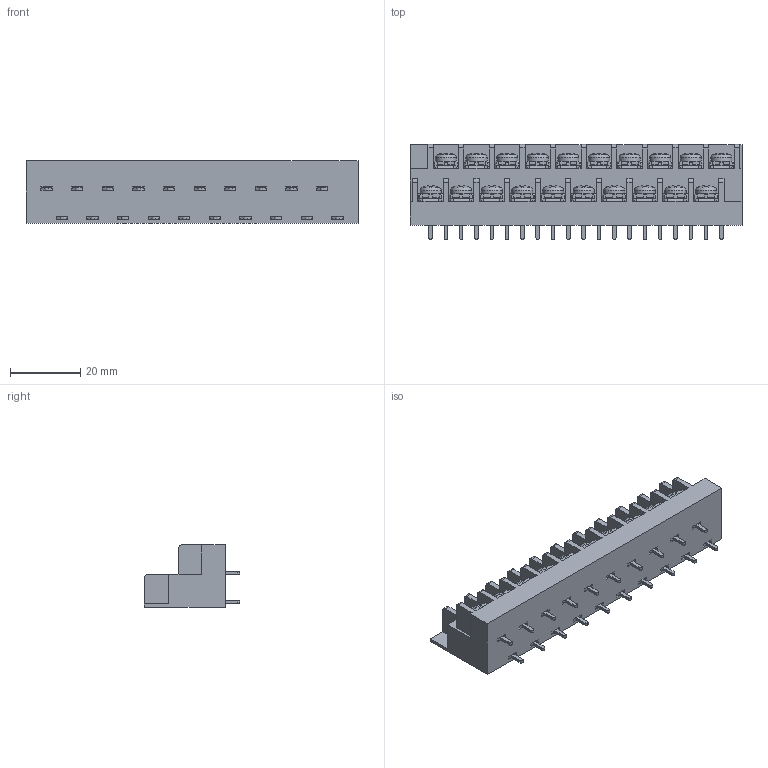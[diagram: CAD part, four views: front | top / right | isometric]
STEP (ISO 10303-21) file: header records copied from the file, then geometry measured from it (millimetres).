
FILE_DESCRIPTION(/* description */ ('Alibre Inc.'),/* implementation_level */ '2;1');
FILE_NAME(/* name */ 'export-DC7E4356-A031-4E9F-B177-688F13486E43',/* time_stamp */ '2021-02-09T11:02:37+09:00',/* author */ (''),/* organization */ (''),/* preprocessor_version */ 'ST-DEVELOPER v17',/* originating_system */ 'Alibre',/* authorisation */ '');
FILE_SCHEMA (('CONFIG_CONTROL_DESIGN'));
Length unit declared in the file: millimetre
Bounding box: 94.35 x 27 x 17.7 mm (x, y, z)
Volume: 24355.4 mm3; surface area: 16444.8 mm2
Topology: 1 solids, 37 shells, 3172 faces, 7894 edges, 4936 vertices
Faces by surface type: plane 2280, bspline 450, cylinder 182, extrusion 80, cone 80, torus 60, sphere 40
Full cylindrical faces by diameter (mm): 3.5 x40, 4.5 x20, 5 x20, 6 x20
Entity records: 99147 total; most frequent: CARTESIAN_POINT 32361, ORIENTED_EDGE 15308, DIRECTION 9911, EDGE_CURVE 7654, VECTOR 5367, LINE 5327, VERTEX_POINT 4856, EDGE_LOOP 3520
